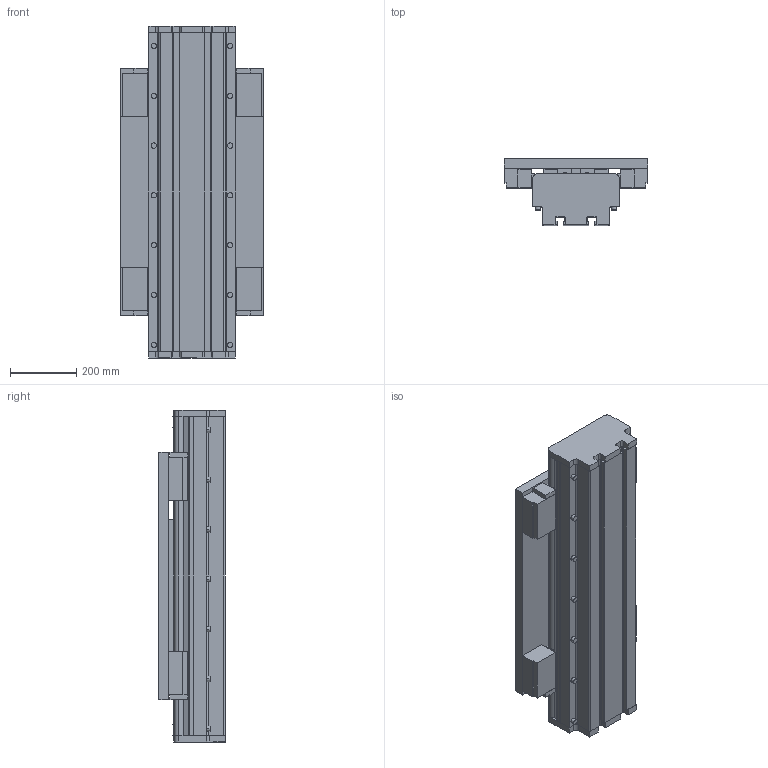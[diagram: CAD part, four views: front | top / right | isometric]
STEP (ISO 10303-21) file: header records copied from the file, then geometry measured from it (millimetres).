
FILE_DESCRIPTION (( 'STEP AP214' ), '1' );
FILE_NAME ('ALLM203.STEP', '2022-06-28T11:59:57', ( '' ), ( '' ), 'SwSTEP 2.0', 'SolidWorks 2020', '' );
FILE_SCHEMA (( 'AUTOMOTIVE_DESIGN' ));
Length unit declared in the file: millimetre
Products named in the file (4): ALLM203; carriage^ALLM203_carriage 0; profile^ALLM203_standard; end plate^ALLM203_bumper
Assembly tree (4 placements, depth 2):
  ALLM203
    profile^ALLM203_standard
    carriage^ALLM203_carriage 0
    end plate^ALLM203_bumper  x2
Bounding box: 432 x 200.6 x 1000 mm (x, y, z)
Volume: 45697691.2 mm3; surface area: 3045091.2 mm2
Topology: 31 solids, 31 shells, 638 faces, 1478 edges, 978 vertices
Faces by surface type: plane 416, cylinder 214, cone 8
Entity records: 17641 total; most frequent: DIRECTION 3018, CARTESIAN_POINT 2907, ORIENTED_EDGE 2756, EDGE_CURVE 1378, AXIS2_PLACEMENT_3D 1029, VECTOR 960, LINE 960, VERTEX_POINT 918
